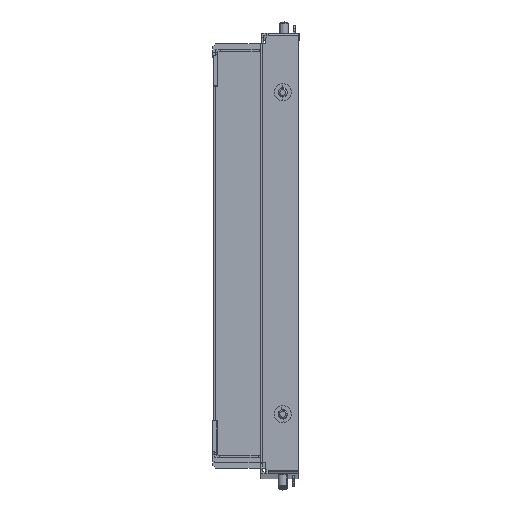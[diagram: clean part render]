
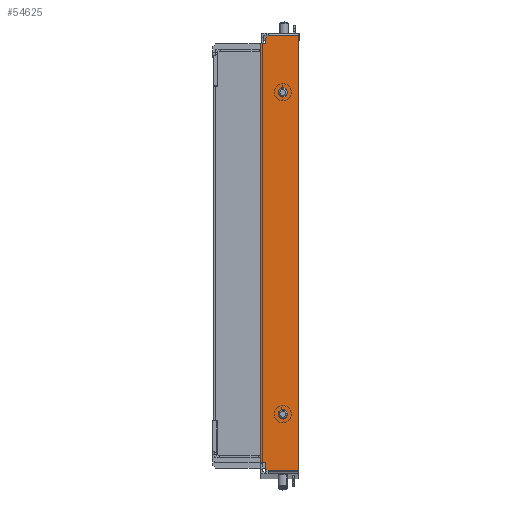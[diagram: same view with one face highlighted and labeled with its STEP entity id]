
A CAD part, top view. The second image highlights one B-rep face of the part: STEP entity #54625.
In plain terms, the highlighted planar face has unit normal (0, 0, 1).
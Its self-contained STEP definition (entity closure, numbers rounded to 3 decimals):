
#691 = CIRCLE ( 'NONE', #25536, 3.25 ) ;
#773 = EDGE_CURVE ( 'NONE', #8027, #46630, #49880, .T. ) ;
#980 = DIRECTION ( 'NONE',  ( 0.707, -0.707, 0. ) ) ;
#1131 = VERTEX_POINT ( 'NONE', #17280 ) ;
#1869 = VERTEX_POINT ( 'NONE', #45398 ) ;
#2529 = EDGE_CURVE ( 'NONE', #1131, #56519, #51855, .T. ) ;
#2636 = CARTESIAN_POINT ( 'NONE',  ( 21.057, 245.878, 3091.5 ) ) ;
#2648 = VERTEX_POINT ( 'NONE', #21106 ) ;
#3269 = ORIENTED_EDGE ( 'NONE', *, *, #23947, .T. ) ;
#3411 = CARTESIAN_POINT ( 'NONE',  ( 7.507, -18.622, 3091.5 ) ) ;
#5047 = DIRECTION ( 'NONE',  ( 0., 0., -1. ) ) ;
#5453 = CARTESIAN_POINT ( 'NONE',  ( -133.843, 122.728, 3091.5 ) ) ;
#5914 = CARTESIAN_POINT ( 'NONE',  ( 5.507, 285.378, 3091.5 ) ) ;
#7010 = AXIS2_PLACEMENT_3D ( 'NONE', #9846, #9545, #50430 ) ;
#7329 = FACE_BOUND ( 'NONE', #53930, .T. ) ;
#8027 = VERTEX_POINT ( 'NONE', #56381 ) ;
#8318 = DIRECTION ( 'NONE',  ( -1., 0., 0. ) ) ;
#8511 = VECTOR ( 'NONE', #19210, 1000. ) ;
#8654 = CARTESIAN_POINT ( 'NONE',  ( 28.807, 279.878, 3091.5 ) ) ;
#9545 = DIRECTION ( 'NONE',  ( 0., 0., -1. ) ) ;
#9610 = DIRECTION ( 'NONE',  ( 0., -1., 0. ) ) ;
#9846 = CARTESIAN_POINT ( 'NONE',  ( 17.807, 245.878, 3091.5 ) ) ;
#10060 = ORIENTED_EDGE ( 'NONE', *, *, #58262, .T. ) ;
#10667 = DIRECTION ( 'NONE',  ( -1., 0., 0. ) ) ;
#10702 = DIRECTION ( 'NONE',  ( 0., -1., 0. ) ) ;
#12107 = ORIENTED_EDGE ( 'NONE', *, *, #48542, .F. ) ;
#12183 = DIRECTION ( 'NONE',  ( 0., -1., 0. ) ) ;
#12403 = CARTESIAN_POINT ( 'NONE',  ( 28.807, 285.378, 3091.5 ) ) ;
#12813 = EDGE_CURVE ( 'NONE', #1131, #22534, #42441, .T. ) ;
#13421 = LINE ( 'NONE', #8654, #34631 ) ;
#14581 = CARTESIAN_POINT ( 'NONE',  ( 2.307, 285.378, 3091.5 ) ) ;
#16056 = LINE ( 'NONE', #35182, #53622 ) ;
#16071 = CARTESIAN_POINT ( 'NONE',  ( 2.307, -13.122, 3091.5 ) ) ;
#16883 = VERTEX_POINT ( 'NONE', #16071 ) ;
#16946 = DIRECTION ( 'NONE',  ( -1., 0., 0. ) ) ;
#17280 = CARTESIAN_POINT ( 'NONE',  ( 28.807, 285.378, 3091.5 ) ) ;
#17723 = VECTOR ( 'NONE', #37471, 1000. ) ;
#18869 = CARTESIAN_POINT ( 'NONE',  ( 28.807, 285.378, 3091.5 ) ) ;
#18923 = VERTEX_POINT ( 'NONE', #3411 ) ;
#19210 = DIRECTION ( 'NONE',  ( -0.707, -0.707, 0. ) ) ;
#19258 = ORIENTED_EDGE ( 'NONE', *, *, #57450, .T. ) ;
#19441 = ORIENTED_EDGE ( 'NONE', *, *, #773, .T. ) ;
#20467 = PLANE ( 'NONE',  #31553 ) ;
#20528 = CARTESIAN_POINT ( 'NONE',  ( 17.807, 20.878, 3091.5 ) ) ;
#21106 = CARTESIAN_POINT ( 'NONE',  ( 2.307, 279.878, 3091.5 ) ) ;
#22378 = ORIENTED_EDGE ( 'NONE', *, *, #37549, .T. ) ;
#22534 = VERTEX_POINT ( 'NONE', #38969 ) ;
#22553 = VECTOR ( 'NONE', #10667, 1000. ) ;
#23704 = LINE ( 'NONE', #27895, #8511 ) ;
#23947 = EDGE_CURVE ( 'NONE', #1869, #18923, #55027, .T. ) ;
#24846 = VERTEX_POINT ( 'NONE', #27466 ) ;
#25536 = AXIS2_PLACEMENT_3D ( 'NONE', #20528, #29793, #16946 ) ;
#26151 = ORIENTED_EDGE ( 'NONE', *, *, #27428, .T. ) ;
#26825 = LINE ( 'NONE', #30434, #46203 ) ;
#27428 = EDGE_CURVE ( 'NONE', #2648, #16883, #46808, .T. ) ;
#27466 = CARTESIAN_POINT ( 'NONE',  ( 21.057, 20.878, 3091.5 ) ) ;
#27895 = CARTESIAN_POINT ( 'NONE',  ( 18.157, 296.028, 3091.5 ) ) ;
#27934 = CARTESIAN_POINT ( 'NONE',  ( 5.507, -13.122, 3091.5 ) ) ;
#28042 = DIRECTION ( 'NONE',  ( -1., 0., 0. ) ) ;
#28667 = ORIENTED_EDGE ( 'NONE', *, *, #12813, .F. ) ;
#29473 = ORIENTED_EDGE ( 'NONE', *, *, #50028, .T. ) ;
#29793 = DIRECTION ( 'NONE',  ( 0., 0., -1. ) ) ;
#29859 = EDGE_CURVE ( 'NONE', #22534, #18923, #26825, .T. ) ;
#30008 = EDGE_LOOP ( 'NONE', ( #19441, #29473 ) ) ;
#30434 = CARTESIAN_POINT ( 'NONE',  ( 28.807, -18.622, 3091.5 ) ) ;
#31553 = AXIS2_PLACEMENT_3D ( 'NONE', #12403, #43156, #48221 ) ;
#32993 = LINE ( 'NONE', #27934, #17723 ) ;
#33139 = CIRCLE ( 'NONE', #46467, 3.25 ) ;
#33575 = DIRECTION ( 'NONE',  ( -1., 0., 0. ) ) ;
#33606 = VECTOR ( 'NONE', #10702, 1000. ) ;
#34141 = VECTOR ( 'NONE', #9610, 1000. ) ;
#34631 = VECTOR ( 'NONE', #28042, 1000. ) ;
#34683 = CIRCLE ( 'NONE', #48980, 3.25 ) ;
#35182 = CARTESIAN_POINT ( 'NONE',  ( 5.507, -18.622, 3091.5 ) ) ;
#35902 = ORIENTED_EDGE ( 'NONE', *, *, #2529, .T. ) ;
#36090 = ORIENTED_EDGE ( 'NONE', *, *, #29859, .F. ) ;
#36494 = VERTEX_POINT ( 'NONE', #50217 ) ;
#37471 = DIRECTION ( 'NONE',  ( -1., 0., 0. ) ) ;
#37549 = EDGE_CURVE ( 'NONE', #24846, #49502, #691, .T. ) ;
#38014 = VERTEX_POINT ( 'NONE', #57093 ) ;
#38969 = CARTESIAN_POINT ( 'NONE',  ( 28.807, -18.622, 3091.5 ) ) ;
#40754 = EDGE_CURVE ( 'NONE', #56519, #41733, #23704, .T. ) ;
#41189 = CARTESIAN_POINT ( 'NONE',  ( 17.807, 20.878, 3091.5 ) ) ;
#41733 = VERTEX_POINT ( 'NONE', #58294 ) ;
#42203 = ORIENTED_EDGE ( 'NONE', *, *, #40754, .T. ) ;
#42441 = LINE ( 'NONE', #18869, #34141 ) ;
#42857 = FACE_OUTER_BOUND ( 'NONE', #54355, .T. ) ;
#43156 = DIRECTION ( 'NONE',  ( 0., 0., 1. ) ) ;
#45398 = CARTESIAN_POINT ( 'NONE',  ( 5.507, -16.622, 3091.5 ) ) ;
#46057 = VECTOR ( 'NONE', #56369, 1000. ) ;
#46203 = VECTOR ( 'NONE', #8318, 1000. ) ;
#46250 = DIRECTION ( 'NONE',  ( -1., 0., 0. ) ) ;
#46467 = AXIS2_PLACEMENT_3D ( 'NONE', #52649, #57437, #33575 ) ;
#46513 = EDGE_CURVE ( 'NONE', #49502, #24846, #34683, .T. ) ;
#46630 = VERTEX_POINT ( 'NONE', #2636 ) ;
#46808 = LINE ( 'NONE', #14581, #33606 ) ;
#47655 = CARTESIAN_POINT ( 'NONE',  ( 14.557, 20.878, 3091.5 ) ) ;
#48221 = DIRECTION ( 'NONE',  ( 1., 0., 0. ) ) ;
#48542 = EDGE_CURVE ( 'NONE', #38014, #16883, #32993, .T. ) ;
#48980 = AXIS2_PLACEMENT_3D ( 'NONE', #41189, #5047, #46250 ) ;
#49502 = VERTEX_POINT ( 'NONE', #47655 ) ;
#49880 = CIRCLE ( 'NONE', #7010, 3.25 ) ;
#50028 = EDGE_CURVE ( 'NONE', #46630, #8027, #33139, .T. ) ;
#50217 = CARTESIAN_POINT ( 'NONE',  ( 5.507, 279.878, 3091.5 ) ) ;
#50430 = DIRECTION ( 'NONE',  ( -1., 0., 0. ) ) ;
#50994 = LINE ( 'NONE', #5914, #46057 ) ;
#51551 = CARTESIAN_POINT ( 'NONE',  ( 28.807, 285.378, 3091.5 ) ) ;
#51855 = LINE ( 'NONE', #51551, #22553 ) ;
#52022 = CARTESIAN_POINT ( 'NONE',  ( 7.507, 285.378, 3091.5 ) ) ;
#52649 = CARTESIAN_POINT ( 'NONE',  ( 17.807, 245.878, 3091.5 ) ) ;
#53287 = FACE_BOUND ( 'NONE', #30008, .T. ) ;
#53622 = VECTOR ( 'NONE', #12183, 1000. ) ;
#53930 = EDGE_LOOP ( 'NONE', ( #58288, #22378 ) ) ;
#54355 = EDGE_LOOP ( 'NONE', ( #19258, #3269, #36090, #28667, #35902, #42203, #58617, #10060, #26151, #12107 ) ) ;
#54625 = ADVANCED_FACE ( 'NONE', ( #53287, #7329, #42857 ), #20467, .T. ) ;
#54783 = VECTOR ( 'NONE', #980, 1000. ) ;
#55027 = LINE ( 'NONE', #5453, #54783 ) ;
#56369 = DIRECTION ( 'NONE',  ( 0., -1., 0. ) ) ;
#56381 = CARTESIAN_POINT ( 'NONE',  ( 14.557, 245.878, 3091.5 ) ) ;
#56519 = VERTEX_POINT ( 'NONE', #52022 ) ;
#57093 = CARTESIAN_POINT ( 'NONE',  ( 5.507, -13.122, 3091.5 ) ) ;
#57437 = DIRECTION ( 'NONE',  ( 0., 0., -1. ) ) ;
#57450 = EDGE_CURVE ( 'NONE', #38014, #1869, #16056, .T. ) ;
#58262 = EDGE_CURVE ( 'NONE', #36494, #2648, #13421, .T. ) ;
#58288 = ORIENTED_EDGE ( 'NONE', *, *, #46513, .T. ) ;
#58294 = CARTESIAN_POINT ( 'NONE',  ( 5.507, 283.378, 3091.5 ) ) ;
#58478 = EDGE_CURVE ( 'NONE', #41733, #36494, #50994, .T. ) ;
#58617 = ORIENTED_EDGE ( 'NONE', *, *, #58478, .T. ) ;
